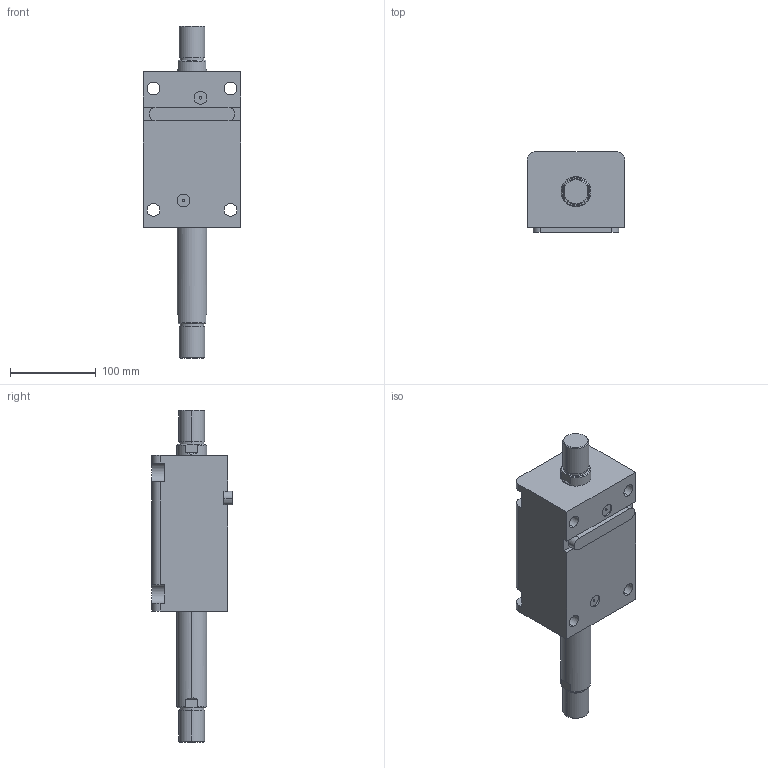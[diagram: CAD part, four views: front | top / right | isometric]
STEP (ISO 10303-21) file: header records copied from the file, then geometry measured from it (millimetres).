
FILE_DESCRIPTION (( 'STEP AP203' ), '1' );
FILE_NAME ('HTB-LWM63-100W.STEP', '2020-12-25T03:57:28', ( '微软用户' ), ( '微软中国' ), 'SwSTEP 2.0', 'SolidWorks 2012', '' );
FILE_SCHEMA (( 'CONFIG_CONTROL_DESIGN' ));
Length unit declared in the file: millimetre
Products named in the file (4): HTB-LWM63-100掛极; HTB-LWM63-100W活塞杆; HTB-LWM63-瑩; HTB-LWM63-100W
Assembly tree (3 placements, depth 2):
  HTB-LWM63-100W
    HTB-LWM63-100掛极
    HTB-LWM63-100W活塞杆
    HTB-LWM63-瑩
Bounding box: 114 x 94.5 x 388 mm (x, y, z)
Volume: 1728389.6 mm3; surface area: 196132.8 mm2
Topology: 3 solids, 3 shells, 113 faces, 273 edges, 178 vertices
Faces by surface type: cylinder 49, plane 48, torus 8, cone 8
Entity records: 3783 total; most frequent: CARTESIAN_POINT 626, DIRECTION 617, ORIENTED_EDGE 546, EDGE_CURVE 273, AXIS2_PLACEMENT_3D 241, VERTEX_POINT 178, VECTOR 135, LINE 135
